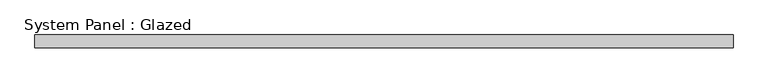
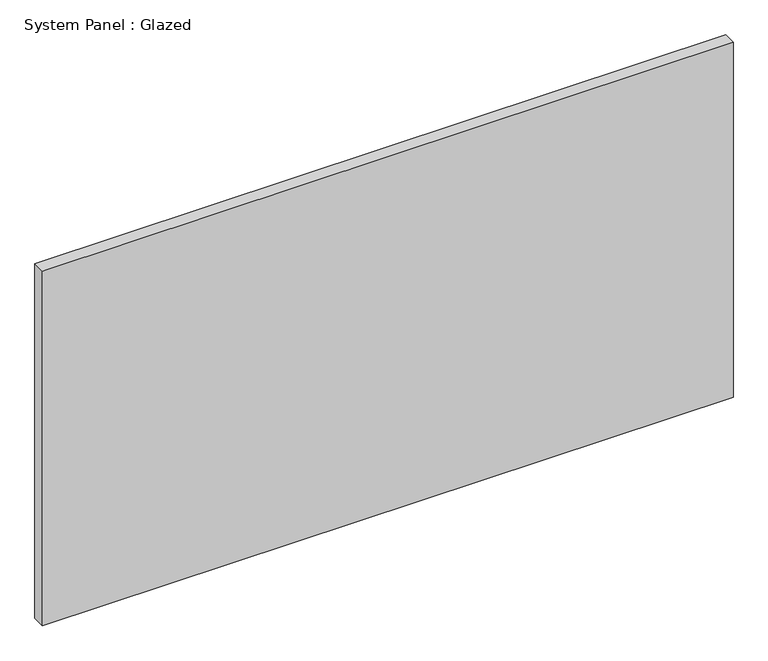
"""IFC4 building model written with IfcOpenShell, lengths in millimetres: plate geometry, System Panel : Glazed."""

import ifcopenshell
import ifcopenshell.guid

model = None  # the IFC model being written
_history = None  # IfcOwnerHistory: only IFC2X3 demands one
_inside = {}  # id of a spatial element -> (the spatial element, [elements in it])
_under = {}  # id of a project, library or spatial element -> (it, [spatial elements below it])
_declared = {}  # id of a project -> (the project, [libraries it declares])
_typed = {}  # id of a type object -> (the type object, [elements of that type])
_made_of = {}  # id of a material, layer set ... -> (it, [elements and type objects made of it])


def new_model(schema):
    """Start an empty IFC model of exactly this schema.

    Asked for "IFC4X3", IfcOpenShell would pick the latest addendum, in which some entities
    have other attributes; the version numbers below select the first issue.
    IFC2X3 requires an IfcOwnerHistory on every rooted entity: one is made here for all.
    """
    global model, _history
    if schema == "IFC4X3":
        model = ifcopenshell.file(schema_version=(4, 3, 0, 0))
    else:
        model = ifcopenshell.file(schema=schema)
    _inside.clear()
    _under.clear()
    _declared.clear()
    _typed.clear()
    _made_of.clear()
    _history = None
    if model.schema == "IFC2X3":
        org = make("IfcOrganization", Name="unknown")
        user = make(
            "IfcPersonAndOrganization",
            ThePerson=make("IfcPerson", FamilyName="unknown"),
            TheOrganization=org,
        )
        app = make(
            "IfcApplication",
            ApplicationDeveloper=org,
            Version="unknown",
            ApplicationFullName="unknown",
            ApplicationIdentifier="unknown",
        )
        _history = make(
            "IfcOwnerHistory",
            OwningUser=user,
            OwningApplication=app,
            ChangeAction="ADDED",
            CreationDate=0,
        )
    return model


def make(cls, **values):
    """One entity of the class cls with the attributes given. An attribute that is None is left unset."""
    return model.create_entity(
        cls, **{name: value for name, value in values.items() if value is not None}
    )


def rooted(cls, **values):
    """An entity with a GlobalId (a new one), such as an element, a storey or a relation."""
    return make(cls, GlobalId=ifcopenshell.guid.new(), OwnerHistory=_history, **values)


def si_unit(unit_type, name, prefix=None):
    """IfcSIUnit, for example si_unit("LENGTHUNIT", "METRE", prefix="MILLI")."""
    return make("IfcSIUnit", UnitType=unit_type, Prefix=prefix, Name=name)


def assignment(units):
    """IfcUnitAssignment: the units of a project."""
    return None if units is None else make("IfcUnitAssignment", Units=units)


def point(xyz):
    """IfcCartesianPoint."""
    return None if xyz is None else make("IfcCartesianPoint", Coordinates=xyz)


def direction(xyz):
    """IfcDirection."""
    return None if xyz is None else make("IfcDirection", DirectionRatios=xyz)


def frame(location, z_axis=None, x_axis=None):
    """IfcAxis2Placement3D, a coordinate frame: its origin and axes. An axis left out is left unset."""
    return make(
        "IfcAxis2Placement3D",
        Location=point(location),
        Axis=direction(z_axis),
        RefDirection=direction(x_axis),
    )


def origin():
    """The frame at (0, 0, 0) with its axes left unset."""
    return frame((0.0, 0.0, 0.0))


def origin_with_axes():
    """The frame at (0, 0, 0) with the z axis (0, 0, 1) and the x axis (1, 0, 0) written out."""
    return frame((0.0, 0.0, 0.0), z_axis=(0.0, 0.0, 1.0), x_axis=(1.0, 0.0, 0.0))


def place(relative_to, where):
    """IfcLocalPlacement: puts the frame where relative to a parent placement (None: the world)."""
    return make(
        "IfcLocalPlacement", PlacementRelTo=relative_to, RelativePlacement=where
    )


def context(
    kind, dimensions, precision=None, world=None, true_north=None, identifier=None
):
    """IfcGeometricRepresentationContext, for example the 3D "Model" context."""
    return make(
        "IfcGeometricRepresentationContext",
        ContextIdentifier=identifier,
        ContextType=kind,
        CoordinateSpaceDimension=dimensions,
        Precision=precision,
        WorldCoordinateSystem=world,
        TrueNorth=true_north,
    )


def project(units=None, contexts=None):
    """IfcProject with its units and contexts."""
    return rooted(
        "IfcProject",
        Name="project",
        RepresentationContexts=contexts,
        UnitsInContext=assignment(units),
    )


def spatial(cls, under=None, at=None, **own):
    """A site, building, storey or space (cls), placed at a placement, below another one or the project."""
    s = rooted(cls, ObjectPlacement=at, **own)
    if under is not None:
        _under.setdefault(under.id(), (under, []))[1].append(s)
    return s


def polyline(points):
    """IfcPolyline through the points."""
    return make("IfcPolyline", Points=[point(p) for p in points])


def outline(outer, holes=None, kind="AREA"):
    """IfcArbitraryClosedProfileDef: a profile drawn as a closed curve; with holes, ...WithVoids."""
    if holes is None:
        return make("IfcArbitraryClosedProfileDef", ProfileType=kind, OuterCurve=outer)
    return make(
        "IfcArbitraryProfileDefWithVoids",
        ProfileType=kind,
        OuterCurve=outer,
        InnerCurves=holes,
    )


def extrude(swept, where, along, depth):
    """IfcExtrudedAreaSolid: the profile swept, set in the frame where, extruded along a direction by depth."""
    return make(
        "IfcExtrudedAreaSolid",
        SweptArea=swept,
        Position=where,
        ExtrudedDirection=direction(along),
        Depth=depth,
    )


def shape(context_of_items, identifier, shape_type, items):
    """IfcShapeRepresentation: the items that make up one representation, for example the "Body"."""
    return make(
        "IfcShapeRepresentation",
        ContextOfItems=context_of_items,
        RepresentationIdentifier=identifier,
        RepresentationType=shape_type,
        Items=items,
    )


def source(mapping_origin, context_of_items, identifier, shape_type, items):
    """IfcRepresentationMap: a shape defined once, which mapped items show again and again."""
    return make(
        "IfcRepresentationMap",
        MappingOrigin=mapping_origin,
        MappedRepresentation=shape(context_of_items, identifier, shape_type, items),
    )


def transform(
    local_origin,
    x_axis=None,
    y_axis=None,
    z_axis=None,
    scale=None,
    scale2=None,
    scale3=None,
    uniform=True,
):
    """IfcCartesianTransformationOperator3D, or its non-uniform kind. x_axis, y_axis, z_axis: its Axis1, 2, 3."""
    if uniform:
        return make(
            "IfcCartesianTransformationOperator3D",
            Axis1=direction(x_axis),
            Axis2=direction(y_axis),
            LocalOrigin=point(local_origin),
            Scale=scale,
            Axis3=direction(z_axis),
        )
    return make(
        "IfcCartesianTransformationOperator3DnonUniform",
        Axis1=direction(x_axis),
        Axis2=direction(y_axis),
        LocalOrigin=point(local_origin),
        Scale=scale,
        Axis3=direction(z_axis),
        Scale2=scale2,
        Scale3=scale3,
    )


def mapped(mapping_source, mapping_target):
    """IfcMappedItem: shows the shape of a source again, moved by a transform."""
    return make(
        "IfcMappedItem", MappingSource=mapping_source, MappingTarget=mapping_target
    )


def made_of(thing, what):
    """Note that an element or type object is made of a material, layer set ...; save() writes the relation."""
    if what is not None:
        _made_of.setdefault(what.id(), (what, []))[1].append(thing)
    return thing


def element(
    cls,
    number,
    at=None,
    inside=None,
    cuts=None,
    type_object=None,
    material=None,
    context=None,
    identifier="Body",
    shape_type=None,
    held_by="IfcProductDefinitionShape",
    body=None,
    shapes=None,
    **own,
):
    """One element of the class cls, such as IfcWall. Its Tag is "e" and its number.

    at: its placement. inside: the storey or other place that contains it. cuts: it is an
    opening in that element (IfcRelVoidsElement). A single representation is given by context,
    identifier, shape_type and body (its items); several are given by shapes. held_by: the class
    of the entity that holds the representations. save() writes the other relations.
    """
    e = rooted(cls, Tag="e%d" % number, ObjectPlacement=at, **own)
    if body is not None:
        shapes = [shape(context, identifier, shape_type, body)]
    if shapes is not None:
        e.Representation = make(held_by, Representations=shapes)
    if inside is not None:
        _inside.setdefault(inside.id(), (inside, []))[1].append(e)
    if cuts is not None:
        rooted(
            "IfcRelVoidsElement", RelatingBuildingElement=cuts, RelatedOpeningElement=e
        )
    if type_object is not None:
        _typed.setdefault(type_object.id(), (type_object, []))[1].append(e)
    return made_of(e, material)


def aggregate(whole, parts):
    """IfcRelAggregates: a whole, such as a stair, and the parts it consists of."""
    return rooted("IfcRelAggregates", RelatingObject=whole, RelatedObjects=parts)


def save(model, path):
    """Write the relations noted so far, then the file.

    IfcRelAggregates (storeys below a building ...), IfcRelContainedInSpatialStructure (elements
    in a storey), IfcRelDefinesByType, IfcRelAssociatesMaterial and IfcRelDeclares: one each for
    every whole, place, type object, material and project.
    """
    for whole, parts in _under.values():
        aggregate(whole, parts)
    for where, things in _inside.values():
        rooted(
            "IfcRelContainedInSpatialStructure",
            RelatedElements=things,
            RelatingStructure=where,
        )
    for kind, things in _typed.values():
        rooted("IfcRelDefinesByType", RelatedObjects=things, RelatingType=kind)
    for what, things in _made_of.values():
        rooted("IfcRelAssociatesMaterial", RelatedObjects=things, RelatingMaterial=what)
    for by, libraries in _declared.values():
        rooted("IfcRelDeclares", RelatingContext=by, RelatedDefinitions=libraries)
    model.write(path)


def system_panel_glazed_07720550(model_context):
    return source(origin(), model_context, "Body", "SweptSolid", [
        extrude(outline(polyline([(667.4999999, -49.5), (-667.4999999, -49.5), (-667.4999999, -24.5), (667.4999999, -24.5), (667.4999999, -49.5)])), origin_with_axes(), (0.0, 0.0, 1.0), 725.0),
    ])


if __name__ == "__main__":
    model = new_model("IFC4")
    model_context = context("Model", 3, world=origin())
    ifc_project = project(units=[si_unit("LENGTHUNIT", "METRE", prefix="MILLI")], contexts=[model_context])
    site = spatial("IfcSite", under=ifc_project)
    building = spatial("IfcBuilding", under=site)
    placement = place(None, origin())
    system_panel_glazed_shape = system_panel_glazed_07720550(model_context)
    element("IfcPlate", 1, ObjectType="System Panel : Glazed", at=placement, inside=building, context=model_context, shape_type="MappedRepresentation", body=[
        mapped(system_panel_glazed_shape, transform((0.0, 0.0, 0.0), x_axis=(1.0, 0.0, 0.0), y_axis=(0.0, 1.0, 0.0), z_axis=(0.0, 0.0, 1.0))),
    ])
    save(model, "model.ifc")
